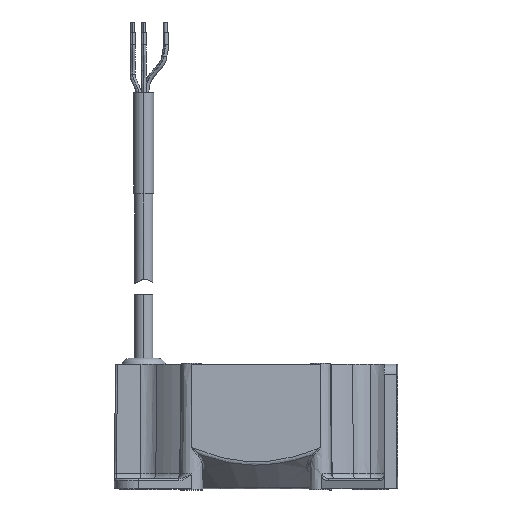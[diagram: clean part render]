
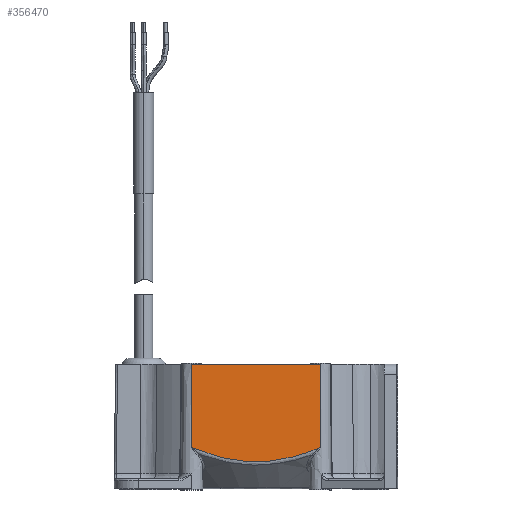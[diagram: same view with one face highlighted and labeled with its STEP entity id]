
A CAD part, left-side view. The second image highlights one B-rep face of the part: STEP entity #356470.
In plain terms, the highlighted planar face has unit normal (-1, 0, 0.009).
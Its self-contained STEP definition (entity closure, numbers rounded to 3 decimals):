
#70230=CARTESIAN_POINT('',(-35.181,16.,10.267));
#70240=CARTESIAN_POINT('',(-35.182,15.775,
10.172));
#70250=CARTESIAN_POINT('',(-35.183,15.55,
10.078));
#70260=CARTESIAN_POINT('',(-35.185,14.999,
9.854));
#70270=CARTESIAN_POINT('',(-35.186,14.673,
9.724));
#70280=CARTESIAN_POINT('',(-35.188,14.018,
9.472));
#70290=CARTESIAN_POINT('',(-35.189,13.689,
9.348));
#70300=CARTESIAN_POINT('',(-35.191,13.029,
9.109));
#70310=CARTESIAN_POINT('',(-35.192,12.698,
8.993));
#70320=CARTESIAN_POINT('',(-35.195,11.701,
8.654));
#70330=CARTESIAN_POINT('',(-35.197,11.031,
8.444));
#70340=CARTESIAN_POINT('',(-35.199,10.02,
8.151));
#70350=CARTESIAN_POINT('',(-35.2,9.682,
8.058));
#70360=CARTESIAN_POINT('',(-35.202,9.003,
7.88));
#70370=CARTESIAN_POINT('',(-35.203,8.663,
7.795));
#70380=CARTESIAN_POINT('',(-35.204,7.98,
7.634));
#70390=CARTESIAN_POINT('',(-35.205,7.639,
7.558));
#70400=CARTESIAN_POINT('',(-35.206,6.953,
7.415));
#70410=CARTESIAN_POINT('',(-35.206,6.61,
7.349));
#70420=CARTESIAN_POINT('',(-35.207,5.921,
7.225));
#70430=CARTESIAN_POINT('',(-35.208,5.575,
7.168));
#70440=CARTESIAN_POINT('',(-35.209,4.883,
7.064));
#70450=CARTESIAN_POINT('',(-35.209,4.536,
7.016));
#70460=CARTESIAN_POINT('',(-35.21,3.841,
6.932));
#70470=CARTESIAN_POINT('',(-35.21,3.493,
6.895));
#70480=CARTESIAN_POINT('',(-35.211,2.796,
6.831));
#70490=CARTESIAN_POINT('',(-35.211,2.448,
6.805));
#70500=CARTESIAN_POINT('',(-35.212,1.749,
6.762));
#70510=CARTESIAN_POINT('',(-35.212,1.399,
6.746));
#70520=CARTESIAN_POINT('',(-35.212,0.7,
6.725));
#70530=CARTESIAN_POINT('',(-35.212,0.35,
6.719));
#70540=CARTESIAN_POINT('',(-35.212,-0.35,
6.719));
#70550=CARTESIAN_POINT('',(-35.212,-0.7,
6.725));
#70560=CARTESIAN_POINT('',(-35.212,-1.399,
6.746));
#70570=CARTESIAN_POINT('',(-35.212,-1.749,
6.762));
#70580=CARTESIAN_POINT('',(-35.211,-2.447,
6.805));
#70590=CARTESIAN_POINT('',(-35.211,-2.796,
6.831));
#70600=CARTESIAN_POINT('',(-35.21,-3.493,
6.895));
#70610=CARTESIAN_POINT('',(-35.21,-3.841,
6.932));
#70620=CARTESIAN_POINT('',(-35.209,-4.536,
7.016));
#70630=CARTESIAN_POINT('',(-35.209,-4.883,
7.064));
#70640=CARTESIAN_POINT('',(-35.208,-5.575,
7.168));
#70650=CARTESIAN_POINT('',(-35.207,-5.92,
7.225));
#70660=CARTESIAN_POINT('',(-35.206,-6.61,
7.349));
#70670=CARTESIAN_POINT('',(-35.206,-6.953,
7.415));
#70680=CARTESIAN_POINT('',(-35.205,-7.639,
7.558));
#70690=CARTESIAN_POINT('',(-35.204,-7.98,
7.634));
#70700=CARTESIAN_POINT('',(-35.203,-8.662,
7.795));
#70710=CARTESIAN_POINT('',(-35.202,-9.003,
7.88));
#70720=CARTESIAN_POINT('',(-35.2,-9.682,
8.058));
#70730=CARTESIAN_POINT('',(-35.199,-10.02,
8.151));
#70740=CARTESIAN_POINT('',(-35.197,-11.031,
8.444));
#70750=CARTESIAN_POINT('',(-35.195,-11.701,
8.654));
#70760=CARTESIAN_POINT('',(-35.192,-12.698,
8.993));
#70770=CARTESIAN_POINT('',(-35.191,-13.029,
9.109));
#70780=CARTESIAN_POINT('',(-35.189,-13.689,
9.348));
#70790=CARTESIAN_POINT('',(-35.188,-14.018,
9.472));
#70800=CARTESIAN_POINT('',(-35.186,-14.673,
9.724));
#70810=CARTESIAN_POINT('',(-35.185,-14.999,
9.854));
#70820=CARTESIAN_POINT('',(-35.183,-15.55,
10.078));
#70830=CARTESIAN_POINT('',(-35.182,-15.775,
10.172));
#70840=CARTESIAN_POINT('',(-35.181,-16.,10.267));
#70850=B_SPLINE_CURVE_WITH_KNOTS('',3,(#70230,#70240,#70250,#70260,
#70270,#70280,#70290,#70300,#70310,#70320,#70330,#70340,#70350,#70360,
#70370,#70380,#70390,#70400,#70410,#70420,#70430,#70440,#70450,#70460,
#70470,#70480,#70490,#70500,#70510,#70520,#70530,#70540,#70550,#70560,
#70570,#70580,#70590,#70600,#70610,#70620,#70630,#70640,#70650,#70660,
#70670,#70680,#70690,#70700,#70710,#70720,#70730,#70740,#70750,#70760,
#70770,#70780,#70790,#70800,#70810,#70820,#70830,#70840),.UNSPECIFIED.,
.F.,.F.,(4,2,2,2,2,2,2,2,2,2,2,2,2,2,2,2,2,2,2,2,2,2,2,2,2,2,2,2,2,2,4),
(0.,0.022,0.054,0.086,
0.118,0.181,0.213,0.245,
0.277,0.309,0.341,0.373,
0.404,0.436,0.468,0.5,
0.532,0.564,0.596,0.627,
0.659,0.691,0.723,0.755,
0.787,0.819,0.882,0.914,
0.946,0.978,1.),.UNSPECIFIED.);
#70860=CARTESIAN_POINT('',(-35.181,16.,10.267));
#70870=VERTEX_POINT('',#70860);
#70880=CARTESIAN_POINT('',(-35.181,-16.,10.267));
#70890=VERTEX_POINT('',#70880);
#70900=EDGE_CURVE('',#70870,#70890,#70850,.T.);
#355520=CARTESIAN_POINT('',(-35.,-16.,31.));
#355530=VERTEX_POINT('',#355520);
#355560=CARTESIAN_POINT('',(-35.,0.,31.));
#355570=DIRECTION('',(-0.,-1.,0.));
#355580=VECTOR('',#355570,1.);
#355590=LINE('',#355560,#355580);
#355600=CARTESIAN_POINT('',(-35.,16.,31.));
#355610=VERTEX_POINT('',#355600);
#355620=EDGE_CURVE('',#355610,#355530,#355590,.T.);
#356260=CARTESIAN_POINT('',(-34.995,16.8,
31.607));
#356270=DIRECTION('',(-1.,0.,0.009));
#356280=DIRECTION('',(0.009,0.,1.));
#356290=AXIS2_PLACEMENT_3D('',#356260,#356270,#356280);
#356300=PLANE('',#356290);
#356310=CARTESIAN_POINT('',(-35.,16.,31.));
#356320=DIRECTION('',(-0.009,0.,-1.));
#356330=VECTOR('',#356320,1.);
#356340=LINE('',#356310,#356330);
#356350=EDGE_CURVE('',#355610,#70870,#356340,.T.);
#356360=ORIENTED_EDGE('',*,*,#356350,.T.);
#356370=ORIENTED_EDGE('',*,*,#355620,.F.);
#356380=CARTESIAN_POINT('',(-35.,-16.,31.));
#356390=DIRECTION('',(-0.009,0.,-1.));
#356400=VECTOR('',#356390,1.);
#356410=LINE('',#356380,#356400);
#356420=EDGE_CURVE('',#355530,#70890,#356410,.T.);
#356430=ORIENTED_EDGE('',*,*,#356420,.F.);
#356440=ORIENTED_EDGE('',*,*,#70900,.T.);
#356450=EDGE_LOOP('',(#356440,#356430,#356370,#356360));
#356460=FACE_OUTER_BOUND('',#356450,.T.);
#356470=ADVANCED_FACE('',(#356460),#356300,.T.);
